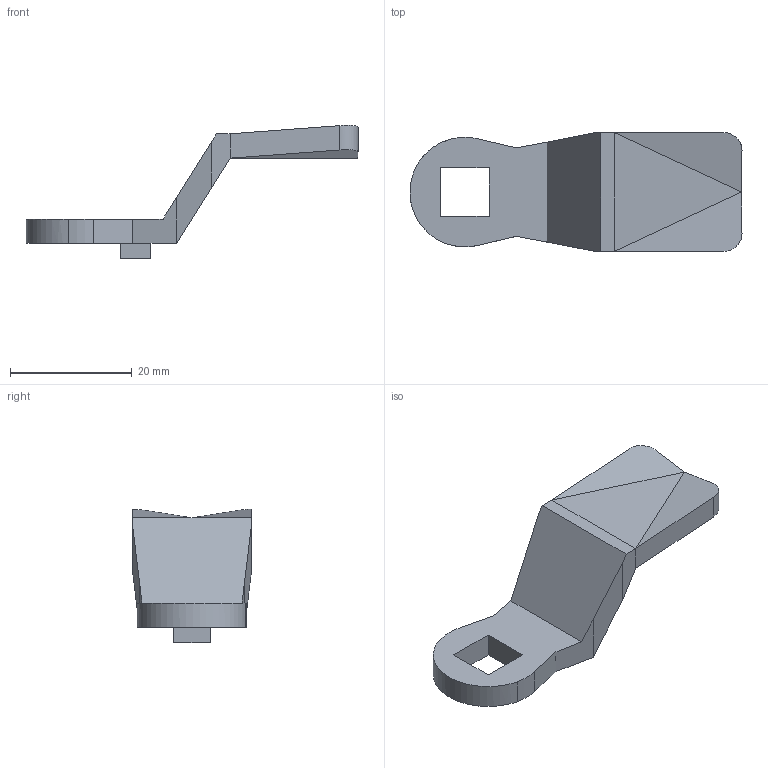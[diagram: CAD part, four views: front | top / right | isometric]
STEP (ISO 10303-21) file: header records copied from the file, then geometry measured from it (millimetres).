
FILE_DESCRIPTION (( 'STEP AP214' ), '1' );
FILE_NAME ('1.4042 Salpa +14.STEP', '2025-08-06T10:09:37', ( '' ), ( '' ), 'SwSTEP 2.0', 'SolidWorks 2025', '' );
FILE_SCHEMA (( 'AUTOMOTIVE_DESIGN' ));
Length unit declared in the file: millimetre
Products named in the file (1): 1.4042 Salpa +14
Bounding box: 54.5 x 19.5 x 21.89 mm (x, y, z)
Volume: 4199.5 mm3; surface area: 2862.3 mm2
Topology: 1 solids, 1 shells, 35 faces, 84 edges, 52 vertices
Faces by surface type: plane 31, cylinder 4
Entity records: 1185 total; most frequent: CARTESIAN_POINT 516, ORIENTED_EDGE 168, B_SPLINE_CURVE_WITH_KNOTS 84, EDGE_CURVE 84, DIRECTION 72, VERTEX_POINT 52, EDGE_LOOP 38, AXIS2_PLACEMENT_3D 36
